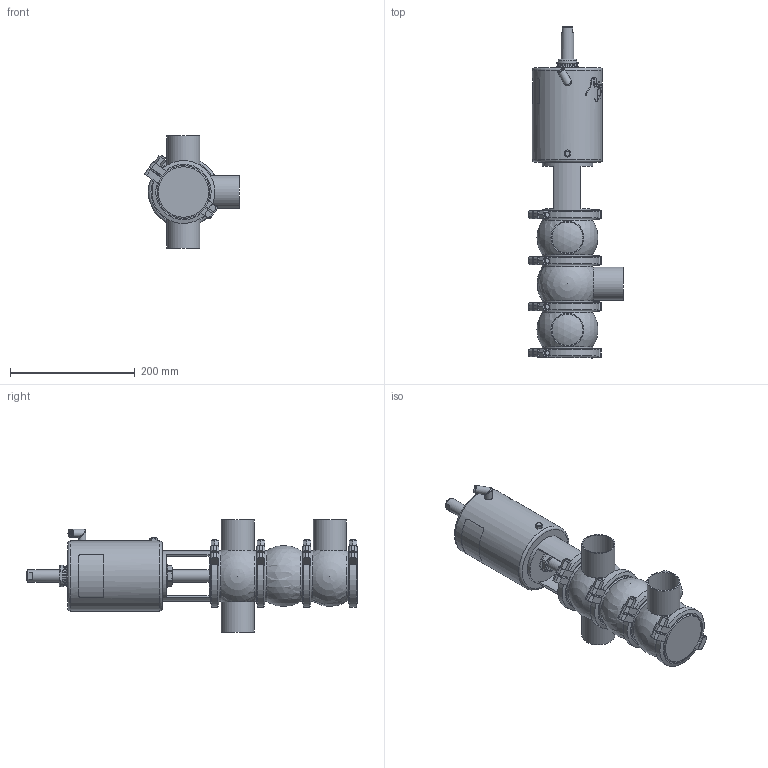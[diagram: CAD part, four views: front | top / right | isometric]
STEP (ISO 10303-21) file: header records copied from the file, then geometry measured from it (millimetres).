
FILE_DESCRIPTION (( 'STEP AP214' ), '1' );
FILE_NAME ('INNOVA L P W DIN 050 T2 AS NC_10.241.16.0016.STEP', '2024-08-07T07:40:17', ( '' ), ( '' ), 'SwSTEP 2.0', 'SolidWorks 2023', '' );
FILE_SCHEMA (( 'AUTOMOTIVE_DESIGN' ));
Length unit declared in the file: millimetre
Products named in the file (7): 10.240.15.0006_DIN 050; 10.240.15.0014_T2 AS P180; 10.241.15.0001_DIN 050; 10.240.15.0007_DIN 050; 10.240.15.0001_DN 050; INNOVA L P W DIN 050 T2 AS NC_10.241.16.0016; 10.240.15.0010_DN 050
Assembly tree (10 placements, depth 2):
  INNOVA L P W DIN 050 T2 AS NC_10.241.16.0016
    10.240.15.0007_DIN 050
    10.240.15.0006_DIN 050  x2
    10.240.15.0010_DN 050
    10.240.15.0014_T2 AS P180
    10.240.15.0001_DN 050  x4
    10.241.15.0001_DIN 050
Bounding box: 152.59 x 533.27 x 180 mm (x, y, z)
Volume: 3324149.2 mm3; surface area: 383558.5 mm2
Topology: 11 solids, 11 shells, 536 faces, 1408 edges, 917 vertices
Faces by surface type: plane 261, cylinder 138, bspline 80, cone 46, sphere 7, torus 4
Full cylindrical faces by diameter (mm): 6.15 x1, 8 x9, 8.5 x1, 10.5 x1, 12.5 x3, 16 x1, 20 x2, 31 x1, 34.5 x2, 36.5 x1, 50 x4, 53 x4, 81 x8, 93 x8, 112.5 x1
Entity records: 20742 total; most frequent: CARTESIAN_POINT 11313, ORIENTED_EDGE 1624, DIRECTION 1275, EDGE_CURVE 812, VERTEX_POINT 563, AXIS2_PLACEMENT_3D 493, EDGE_LOOP 431, FACE_OUTER_BOUND 386
